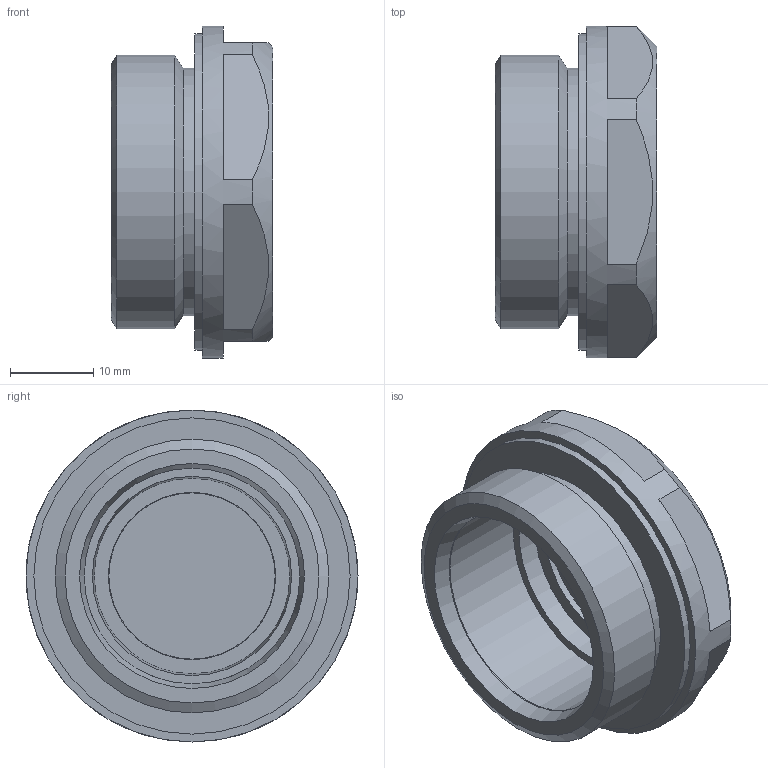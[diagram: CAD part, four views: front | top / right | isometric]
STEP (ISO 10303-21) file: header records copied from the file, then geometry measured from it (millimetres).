
FILE_DESCRIPTION( ( 'STEP AP203' ), '1' );
FILE_NAME( 'C:/Temp/Ganter_Step_05_03_2020/data/3_5/gn7404/gn7404_al/Two-way breathable membrane GN 7404-AL-M33x1,5-1,2.stp', '2020-03-12T13:44:05', ( 'License CC BY-ND 4.0' ), ( 'CADENAS' ), ' ', 'PARTsolutions', ' ' );
FILE_SCHEMA( ( 'CONFIG_CONTROL_DESIGN' ) );
Length unit declared in the file: millimetre
Products named in the file (1): _Two-way breathable membrane GN 7404-AL-M33x1,5-1,2
Bounding box: 19.5 x 40 x 40 mm (x, y, z)
Volume: 9461.2 mm3; surface area: 7261.4 mm2
Topology: 1 solids, 1 shells, 111 faces, 410 edges, 276 vertices
Faces by surface type: cylinder 74, plane 22, cone 9, torus 4, sphere 2
Full cylindrical faces by diameter (mm): 1.6 x43, 24 x1, 25.7 x1, 26 x1, 29.8 x1, 33 x1, 38.1 x1, 40 x1
Entity records: 6258 total; most frequent: CARTESIAN_POINT 3430, ORIENTED_EDGE 576, DIRECTION 428, EDGE_CURVE 288, EDGE_LOOP 261, VERTEX_POINT 221, AXIS2_PLACEMENT_3D 193, FACE_OUTER_BOUND 167
